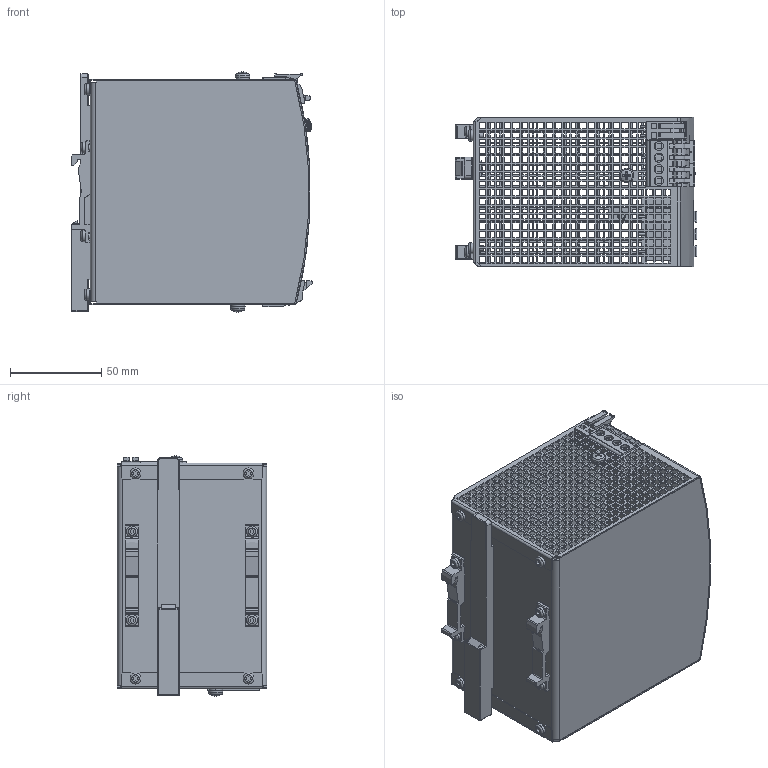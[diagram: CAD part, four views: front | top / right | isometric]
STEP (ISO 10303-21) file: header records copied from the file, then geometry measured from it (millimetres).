
FILE_DESCRIPTION((''),'2;1');
FILE_NAME('C:\Dokumente und Einstellungen\raabk-neu\Eigene Dateien\tmp\MOCKUP\QS20.241.stp','2007-12-05T15:42:38',('raabk'),(''),'Autodesk Inventor 11','Autodesk Inventor 11','');
FILE_SCHEMA(('AUTOMOTIVE_DESIGN { 1 0 10303 214 1 1 1 1 }'));
Length unit declared in the file: millimetre
Products named in the file (14): 362.00; HOUSING BODY 362.00; HOUSING COVER 362.00; T HOLDER; SLIDER; SCREW 3x6; WASHER 4; SCREW 4x8; POTENTIOMETER COVER; TERMINAL 4P R6,35; TERMINAL 2P R5; TERMINAL 3P R9,52; LED GN; LED RD
Assembly tree (23 placements, depth 2):
  362.00
    HOUSING BODY 362.00
    HOUSING COVER 362.00
    T HOLDER  x2
    SLIDER
    SCREW 3x6  x8
    WASHER 4  x2
    SCREW 4x8  x2
    POTENTIOMETER COVER
    TERMINAL 4P R6,35
    TERMINAL 2P R5
    TERMINAL 3P R9,52
    LED GN
    LED RD
Bounding box: 132.7 x 82 x 131.73 mm (x, y, z)
Volume: 103647 mm3; surface area: 142494.7 mm2
Topology: 23 solids, 23 shells, 3850 faces, 11055 edges, 7354 vertices
Faces by surface type: plane 3210, cylinder 305, bspline 253, torus 34, cone 34, sphere 14
Full cylindrical faces by diameter (mm): 1 x2, 1.25 x7, 3 x8, 3.1 x4, 3.621 x2, 4 x2, 4.199 x1, 4.355 x1, 4.5 x4, 4.6 x2, 4.899 x1, 5 x4, 5.5 x3, 6 x8
Entity records: 127136 total; most frequent: CARTESIAN_POINT 29400, ORIENTED_EDGE 21016, DIRECTION 17636, EDGE_CURVE 10508, VECTOR 9142, LINE 9142, VERTEX_POINT 7009, EDGE_LOOP 4973
